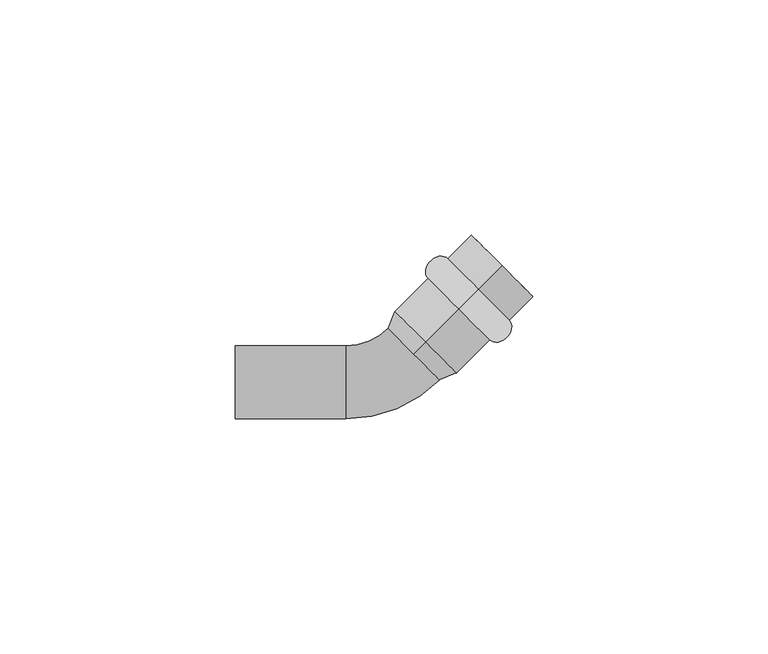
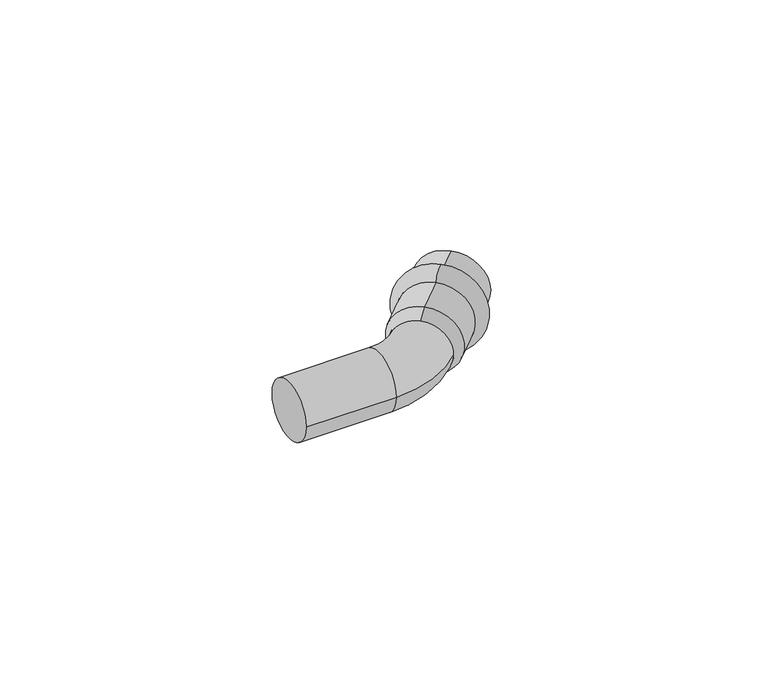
"""IFC4 building model written with IfcOpenShell, lengths in millimetres: pipe fitting geometry, РЕХАУ_Пресс Отвод-вставка : 15 x 45°."""

from ifc_helpers import new_model, si_unit, point, frame, origin, place, context, project, spatial, polyline, circle_curve, ellipse_curve, trimmed, source, transform, mapped, element, save
from ifc_brep_helpers import plane_surface, cylinder_surface, revolved_surface, advanced_brep


def pipe_fitting_8c9e4054(model_context):
    return source(origin(), model_context, "Body", "AdvancedBrep", [
        advanced_brep(
        [(51.7282792, 19.7282792, 9.25), (51.7282792, 19.7282792, -9.25), (47.5563492, 15.5563492, -9.25), (47.5563492, 15.5563492, 9.25)],
        [
            (0, 1, circle_curve(frame((51.7282792, 19.7282792, 0.0), z_axis=(0.7071067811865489, 0.7071067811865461, 0.0), x_axis=(0.0, 0.0, -1.0)), 9.25)),
            (1, 2),
            (2, 3, circle_curve(frame((47.5563492, 15.5563492, 0.0), z_axis=(-0.7071067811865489, -0.7071067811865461, 0.0), x_axis=(0.0, 0.0, -1.0)), 9.25)),
            (3, 0),
            (1, 0, circle_curve(frame((51.7282792, 19.7282792, 0.0), z_axis=(0.7071067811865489, 0.7071067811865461, 0.0), x_axis=(0.0, 0.0, -1.0)), 9.25)),
            (3, 2, circle_curve(frame((47.5563492, 15.5563492, 0.0), z_axis=(-0.7071067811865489, -0.7071067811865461, 0.0), x_axis=(0.0, 0.0, -1.0)), 9.25)),
            (2, 1, ellipse_curve(frame((49.6423142, 17.6423142, -9.25), z_axis=(0.7071067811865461, -0.7071067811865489, 0.0), x_axis=(0.7071067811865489, 0.7071067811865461, 0.0)), 2.95, 2.3)),
            (0, 3, ellipse_curve(frame((49.6423142, 17.6423142, 9.25), z_axis=(0.7071067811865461, -0.7071067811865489, 0.0), x_axis=(0.7071067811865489, 0.7071067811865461, 0.0)), 2.95, 2.3)),
        ],
        [
            revolved_surface(polyline([(47.55634920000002, 15.556349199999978, -9.25), (51.72827920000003, 19.72827919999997, -9.25)]), (38.363961, 6.363961, 0.0), (-0.7071067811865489, -0.7071067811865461, 0.0)),
            revolved_surface(trimmed(ellipse_curve(frame((49.6423142, 17.6423142, -9.25), z_axis=(-0.7071067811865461, 0.7071067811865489, 0.0), x_axis=(0.7071067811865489, 0.7071067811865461, 0.0)), 2.95, 2.3), [point((51.7282792, 19.7282792, -9.25))], [point((47.5563492, 15.5563492, -9.25))], True, "CARTESIAN"), (38.363961, 6.363961, 0.0), (-0.7071067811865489, -0.7071067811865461, 0.0)),
        ],
        [
            (0, [[1, 2, 3, 4]]),
            (0, [[5, -4, 6, -2]]),
            (1, [[-3, 7, -1, 8]]),
            (1, [[-6, -8, -5, -7]]),
        ],
    ),
        advanced_brep(
        [(37.9865226, 5.9865226, 7.75), (37.9865226, 5.9865226, -7.75), (40.4852814, 8.4852814, -9.25), (40.4852814, 8.4852814, 9.25), (56.7487373, 24.7487373, 7.75), (56.7487373, 24.7487373, -7.75), (56.7487373, 24.7487373, 9.25), (56.7487373, 24.7487373, -9.25)],
        [
            (0, 1, circle_curve(frame((37.9865226, 5.9865226, 0.0), z_axis=(0.7071067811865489, 0.7071067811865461, 0.0), x_axis=(0.0, 0.0, -1.0)), 7.75)),
            (1, 2),
            (2, 3, circle_curve(frame((40.4852814, 8.4852814, 0.0), z_axis=(-0.7071067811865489, -0.7071067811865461, 0.0), x_axis=(0.0, 0.0, -1.0)), 9.25)),
            (3, 0),
            (1, 0, circle_curve(frame((37.9865226, 5.9865226, 0.0), z_axis=(0.7071067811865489, 0.7071067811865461, 0.0), x_axis=(0.0, 0.0, -1.0)), 7.75)),
            (3, 2, circle_curve(frame((40.4852814, 8.4852814, 0.0), z_axis=(-0.7071067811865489, -0.7071067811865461, 0.0), x_axis=(0.0, 0.0, -1.0)), 9.25)),
            (4, 5, circle_curve(frame((56.7487373, 24.7487373, 0.0), z_axis=(0.7071067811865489, 0.7071067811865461, 0.0), x_axis=(0.0, 0.0, -1.0)), 7.75)),
            (5, 1),
            (0, 4),
            (5, 4, circle_curve(frame((56.7487373, 24.7487373, 0.0), z_axis=(0.7071067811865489, 0.7071067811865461, 0.0), x_axis=(0.0, 0.0, -1.0)), 7.75)),
            (6, 7, circle_curve(frame((56.7487373, 24.7487373, 0.0), z_axis=(0.7071067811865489, 0.7071067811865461, 0.0), x_axis=(0.0, 0.0, -1.0)), 9.25)),
            (7, 5),
            (4, 6),
            (7, 6, circle_curve(frame((56.7487373, 24.7487373, 0.0), z_axis=(0.7071067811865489, 0.7071067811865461, 0.0), x_axis=(0.0, 0.0, -1.0)), 9.25)),
            (2, 7),
            (6, 3),
        ],
        [
            revolved_surface(polyline([(40.4852814, 8.4852814, -9.25), (37.9865226, 5.9865226, -7.75)]), (38.363961, 6.363961, 0.0), (-0.7071067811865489, -0.7071067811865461, 0.0)),
            revolved_surface(polyline([(37.9865226, 5.986522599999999, -7.75), (56.74873730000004, 24.74873729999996, -7.75)]), (38.363961, 6.363961, 0.0), (-0.7071067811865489, -0.7071067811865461, 0.0)),
            plane_surface(frame((56.7487373, 24.7487373, 0.0), z_axis=(0.7071067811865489, 0.7071067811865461, 0.0), x_axis=(0.0, 0.0, -1.0))),
            cylinder_surface(frame((38.363961, 6.363961, 0.0), z_axis=(-0.7071067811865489, -0.7071067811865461, 0.0), x_axis=(0.0, 0.0, -1.0)), 9.25),
        ],
        [
            (0, [[1, 2, 3, 4]]),
            (0, [[5, -4, 6, -2]]),
            (1, [[7, 8, -1, 9]]),
            (1, [[10, -9, -5, -8]]),
            (2, [[11, 12, -7, 13]]),
            (2, [[14, -13, -10, -12]]),
            (3, [[-3, 15, -11, 16]]),
            (3, [[-6, -16, -14, -15]]),
        ],
    ),
        advanced_brep(
        [(0.0, -7.75, 0.0), (0.0, 7.75, 0.0), (23.5337785, -7.75, 0.0), (23.5337785, 7.75, 0.0), (32.506445, 11.4666002, 0.0), (43.4666002, 0.506445, 0.0), (45.9653589, 3.0052038, 0.0), (35.0052038, 13.9653589, 0.0)],
        [
            (0, 1, circle_curve(frame((0.0, 0.0, 0.0), z_axis=(-1.0, 0.0, 0.0), x_axis=(0.0, 1.0, 0.0)), 7.75)),
            (1, 0, circle_curve(frame((0.0, 0.0, 0.0), z_axis=(-1.0, 0.0, 0.0), x_axis=(0.0, 1.0, 0.0)), 7.75)),
            (0, 2),
            (2, 3, circle_curve(frame((23.5337785, 0.0, 0.0), z_axis=(-1.0, 0.0, 0.0), x_axis=(0.0, 1.0, 0.0)), 7.75)),
            (3, 1),
            (3, 2, circle_curve(frame((23.5337785, 0.0, 0.0), z_axis=(-1.0, 0.0, 0.0), x_axis=(0.0, 1.0, 0.0)), 7.75)),
            (4, 3, circle_curve(frame((23.5337785, 20.4392666, 0.0), z_axis=(0.0, 0.0, -1.0), x_axis=(0.0, -1.0, 0.0)), 12.6892666)),
            (2, 5, circle_curve(frame((23.5337785, 20.4392666, 0.0), z_axis=(0.0, 0.0, 1.0), x_axis=(0.0, -1.0, 0.0)), 28.1892666)),
            (5, 4, circle_curve(frame((37.9865226, 5.9865226, 0.0), z_axis=(-0.7071067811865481, -0.7071067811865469, 0.0), x_axis=(-0.7071067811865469, 0.7071067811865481, 0.0)), 7.75)),
            (4, 5, circle_curve(frame((37.9865226, 5.9865226, 0.0), z_axis=(-0.7071067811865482, -0.7071067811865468, 0.0), x_axis=(-0.7071067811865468, 0.7071067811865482, 0.0)), 7.75)),
            (6, 7, circle_curve(frame((40.4852814, 8.4852814, 0.0), z_axis=(0.7071067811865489, 0.7071067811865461, 0.0), x_axis=(-0.7071067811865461, 0.7071067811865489, 0.0)), 7.75)),
            (7, 6, circle_curve(frame((40.4852814, 8.4852814, 0.0), z_axis=(0.7071067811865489, 0.7071067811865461, 0.0), x_axis=(-0.7071067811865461, 0.7071067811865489, 0.0)), 7.75)),
            (5, 6),
            (7, 4),
        ],
        [
            plane_surface(frame((0.0, 0.0, 0.0), z_axis=(-1.0, 0.0, 0.0), x_axis=(0.0, 0.0, 1.0))),
            cylinder_surface(frame((0.0, 0.0, 0.0), z_axis=(-1.0, 0.0, 0.0), x_axis=(0.0, 1.0, 0.0)), 7.75),
            revolved_surface(trimmed(ellipse_curve(frame((23.5337785, 0.0, 0.0), z_axis=(-1.0, 0.0, 0.0), x_axis=(0.0, 1.0, 0.0)), 7.75, 7.75), [point((23.5337785, -7.75, 0.0))], [point((23.5337785, 7.75, 0.0))], True, "CARTESIAN"), (23.5337785, 20.4392666, 0.0), (0.0, 0.0, 1.0)),
            revolved_surface(trimmed(ellipse_curve(frame((23.5337785, 0.0, 0.0), z_axis=(-1.0, 0.0, 0.0), x_axis=(0.0, 1.0, 0.0)), 7.75, 7.75), [point((23.5337785, 7.75, 0.0))], [point((23.5337785, -7.75, 0.0))], True, "CARTESIAN"), (23.5337785, 20.4392666, 0.0), (0.0, 0.0, 1.0)),
            plane_surface(frame((40.4852814, 8.4852814, 0.0), z_axis=(0.7071067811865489, 0.7071067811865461, 0.0), x_axis=(0.0, 0.0, 1.0))),
            cylinder_surface(frame((37.9865226, 5.9865226, 0.0), z_axis=(-0.7071067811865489, -0.7071067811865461, 0.0), x_axis=(-0.7071067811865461, 0.7071067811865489, 0.0)), 7.75),
        ],
        [
            (0, [[1, 2]]),
            (1, [[-1, 3, 4, 5]]),
            (1, [[-2, -5, 6, -3]]),
            (2, [[7, -4, 8, 9]]),
            (3, [[-8, -6, -7, 10]]),
            (4, [[11, 12]]),
            (5, [[-9, 13, -12, 14]]),
            (5, [[-10, -14, -11, -13]]),
        ],
    ),
    ])


if __name__ == "__main__":
    model = new_model("IFC4")
    model_context = context("Model", 3, world=origin())
    ifc_project = project(units=[si_unit("LENGTHUNIT", "METRE", prefix="MILLI")], contexts=[model_context])
    site = spatial("IfcSite", under=ifc_project)
    building = spatial("IfcBuilding", under=site)
    placement = place(None, origin())
    pipe_fitting_shape = pipe_fitting_8c9e4054(model_context)
    element("IfcPipeFitting", 1, ObjectType="РЕХАУ_Пресс Отвод-вставка : 15 x 45°", at=placement, inside=building, context=model_context, shape_type="MappedRepresentation", body=[
        mapped(pipe_fitting_shape, transform((0.0, 0.0, 0.0), x_axis=(1.0, 0.0, 0.0), y_axis=(0.0, 1.0, 0.0), z_axis=(0.0, 0.0, 1.0))),
    ])
    save(model, "model.ifc")
